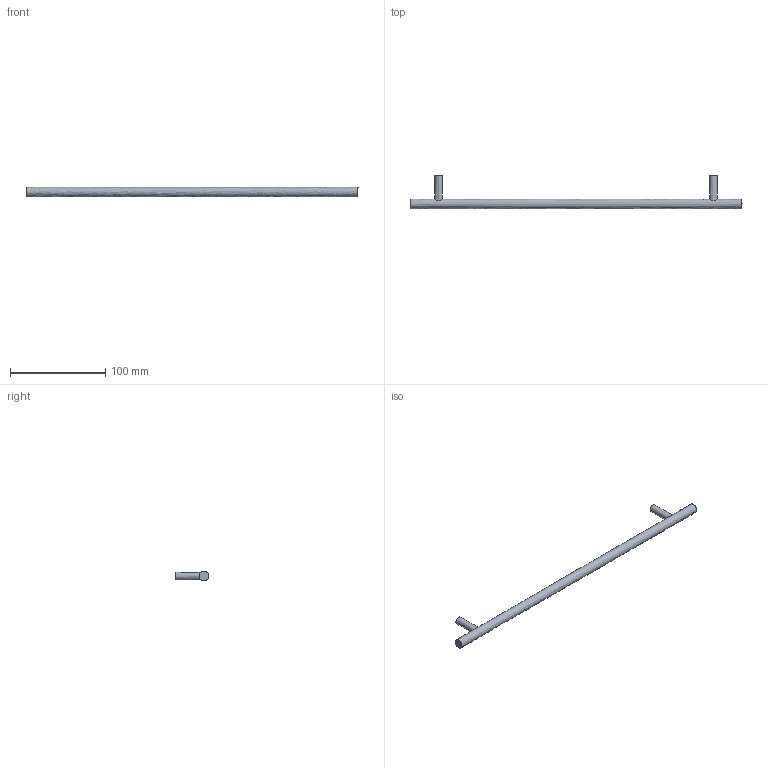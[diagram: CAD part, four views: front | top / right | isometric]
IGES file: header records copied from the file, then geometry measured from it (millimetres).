
Start section: Data from Parasolid IGES Translator 15.0.47, Copyright(c) 2006 Siemens P LM Software. All Rights Reserved.
Global section: file name: 9070991.igs; native system:  By UGS Corp.; preprocessor: XPlus GENERIC/IGES 3.0; author: Noname; organization: Noname; date: 20140122.181236; units: millimetre
Bounding box: 348 x 35 x 10 mm (x, y, z)
Surface area: 12684.1 mm2 (no closed solid volume)
Topology: 0 solids, 0 shells, 11 faces, 30 edges, 22 vertices
Faces by surface type: extrusion 6, revolution 5
